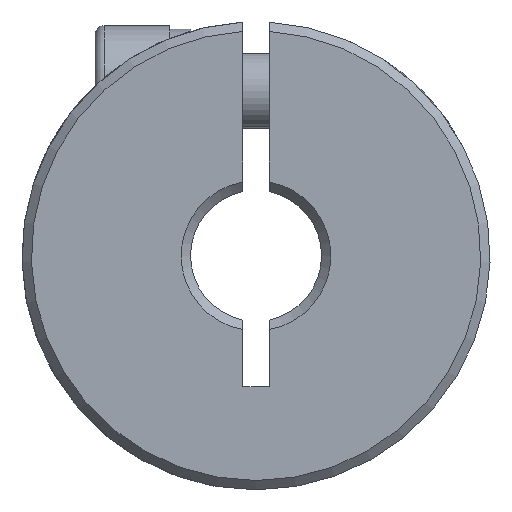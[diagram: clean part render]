
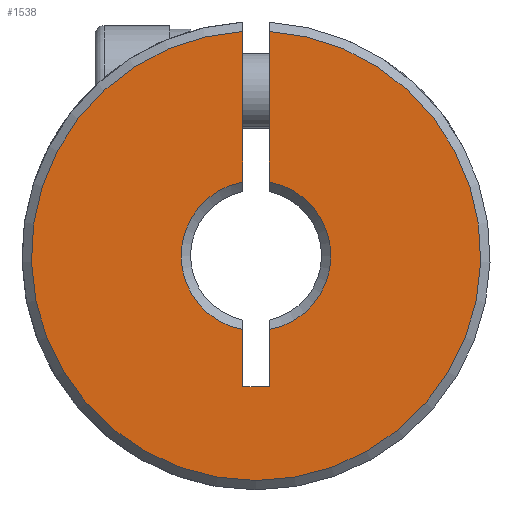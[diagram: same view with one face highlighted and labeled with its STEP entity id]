
A CAD part, front view. The second image highlights one B-rep face of the part: STEP entity #1538.
In plain terms, the highlighted planar face has unit normal (0, -1, 0).
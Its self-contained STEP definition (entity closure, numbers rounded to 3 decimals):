
#55 = ORIENTED_EDGE ( 'NONE', *, *, #414, .F. ) ;
#145 = VECTOR ( 'NONE', #199, 1000. ) ;
#156 = CARTESIAN_POINT ( 'NONE',  ( -0.7, 0.25, -7. ) ) ;
#158 = DIRECTION ( 'NONE',  ( 0., -1., 0. ) ) ;
#199 = DIRECTION ( 'NONE',  ( 0., 0., 1. ) ) ;
#260 = VERTEX_POINT ( 'NONE', #1077 ) ;
#261 = CARTESIAN_POINT ( 'NONE',  ( 12.5, 0.25, -50. ) ) ;
#341 = CARTESIAN_POINT ( 'NONE',  ( 0.7, 0.25, 11.98 ) ) ;
#370 = LINE ( 'NONE', #156, #530 ) ;
#374 = DIRECTION ( 'NONE',  ( 0., 0., 1. ) ) ;
#414 = EDGE_CURVE ( 'NONE', #3244, #704, #2529, .T. ) ;
#443 = LINE ( 'NONE', #2489, #1122 ) ;
#464 = ORIENTED_EDGE ( 'NONE', *, *, #1906, .T. ) ;
#507 = ORIENTED_EDGE ( 'NONE', *, *, #1862, .F. ) ;
#530 = VECTOR ( 'NONE', #1441, 1000. ) ;
#535 = CARTESIAN_POINT ( 'NONE',  ( -0.7, 0.25, -3.938 ) ) ;
#559 = EDGE_CURVE ( 'NONE', #1071, #1973, #1302, .T. ) ;
#647 = EDGE_CURVE ( 'NONE', #1071, #260, #1139, .T. ) ;
#703 = ORIENTED_EDGE ( 'NONE', *, *, #867, .F. ) ;
#704 = VERTEX_POINT ( 'NONE', #2687 ) ;
#827 = DIRECTION ( 'NONE',  ( 0., 0., 1. ) ) ;
#867 = EDGE_CURVE ( 'NONE', #2083, #1973, #370, .T. ) ;
#926 = VECTOR ( 'NONE', #2899, 1000. ) ;
#991 = DIRECTION ( 'NONE',  ( 1., 0., 0. ) ) ;
#1006 = CIRCLE ( 'NONE', #1399, 12. ) ;
#1013 = CARTESIAN_POINT ( 'NONE',  ( 0., 0.25, 0. ) ) ;
#1036 = CARTESIAN_POINT ( 'NONE',  ( -0.7, 0.25, 11.98 ) ) ;
#1071 = VERTEX_POINT ( 'NONE', #535 ) ;
#1077 = CARTESIAN_POINT ( 'NONE',  ( -0.7, 0.25, -7. ) ) ;
#1122 = VECTOR ( 'NONE', #991, 1000. ) ;
#1139 = LINE ( 'NONE', #2367, #926 ) ;
#1167 = LINE ( 'NONE', #1872, #1667 ) ;
#1199 = AXIS2_PLACEMENT_3D ( 'NONE', #2913, #2607, #827 ) ;
#1265 = CARTESIAN_POINT ( 'NONE',  ( 0.7, 0.25, 3.938 ) ) ;
#1302 = CIRCLE ( 'NONE', #1199, 4. ) ;
#1335 = EDGE_CURVE ( 'NONE', #260, #3244, #443, .T. ) ;
#1366 = FACE_OUTER_BOUND ( 'NONE', #2122, .T. ) ;
#1399 = AXIS2_PLACEMENT_3D ( 'NONE', #3213, #158, #374 ) ;
#1441 = DIRECTION ( 'NONE',  ( 0., 0., -1. ) ) ;
#1481 = EDGE_CURVE ( 'NONE', #3038, #704, #2767, .T. ) ;
#1538 = ADVANCED_FACE ( 'NONE', ( #1366 ), #2812, .F. ) ;
#1642 = ORIENTED_EDGE ( 'NONE', *, *, #1481, .T. ) ;
#1667 = VECTOR ( 'NONE', #2661, 1000. ) ;
#1862 = EDGE_CURVE ( 'NONE', #3038, #2488, #1167, .T. ) ;
#1872 = CARTESIAN_POINT ( 'NONE',  ( 0.7, 0.25, -7. ) ) ;
#1906 = EDGE_CURVE ( 'NONE', #2083, #2488, #1006, .T. ) ;
#1970 = AXIS2_PLACEMENT_3D ( 'NONE', #261, #3054, #2306 ) ;
#1973 = VERTEX_POINT ( 'NONE', #2975 ) ;
#1988 = CARTESIAN_POINT ( 'NONE',  ( 0.7, 0.25, -7. ) ) ;
#2017 = DIRECTION ( 'NONE',  ( 0., 1., 0. ) ) ;
#2083 = VERTEX_POINT ( 'NONE', #1036 ) ;
#2096 = ORIENTED_EDGE ( 'NONE', *, *, #559, .T. ) ;
#2122 = EDGE_LOOP ( 'NONE', ( #507, #1642, #55, #3310, #3324, #2096, #703, #464 ) ) ;
#2306 = DIRECTION ( 'NONE',  ( 0., 0., 1. ) ) ;
#2367 = CARTESIAN_POINT ( 'NONE',  ( -0.7, 0.25, -7. ) ) ;
#2488 = VERTEX_POINT ( 'NONE', #341 ) ;
#2489 = CARTESIAN_POINT ( 'NONE',  ( 0.7, 0.25, -7. ) ) ;
#2529 = LINE ( 'NONE', #2709, #145 ) ;
#2564 = DIRECTION ( 'NONE',  ( 0., 0., 1. ) ) ;
#2607 = DIRECTION ( 'NONE',  ( 0., 1., 0. ) ) ;
#2661 = DIRECTION ( 'NONE',  ( 0., 0., 1. ) ) ;
#2687 = CARTESIAN_POINT ( 'NONE',  ( 0.7, 0.25, -3.938 ) ) ;
#2709 = CARTESIAN_POINT ( 'NONE',  ( 0.7, 0.25, -7. ) ) ;
#2767 = CIRCLE ( 'NONE', #2963, 4. ) ;
#2812 = PLANE ( 'NONE',  #1970 ) ;
#2899 = DIRECTION ( 'NONE',  ( 0., 0., -1. ) ) ;
#2913 = CARTESIAN_POINT ( 'NONE',  ( 0., 0.25, 0. ) ) ;
#2963 = AXIS2_PLACEMENT_3D ( 'NONE', #1013, #2017, #2564 ) ;
#2975 = CARTESIAN_POINT ( 'NONE',  ( -0.7, 0.25, 3.938 ) ) ;
#3038 = VERTEX_POINT ( 'NONE', #1265 ) ;
#3054 = DIRECTION ( 'NONE',  ( 0., 1., 0. ) ) ;
#3213 = CARTESIAN_POINT ( 'NONE',  ( 0., 0.25, 0. ) ) ;
#3244 = VERTEX_POINT ( 'NONE', #1988 ) ;
#3310 = ORIENTED_EDGE ( 'NONE', *, *, #1335, .F. ) ;
#3324 = ORIENTED_EDGE ( 'NONE', *, *, #647, .F. ) ;
